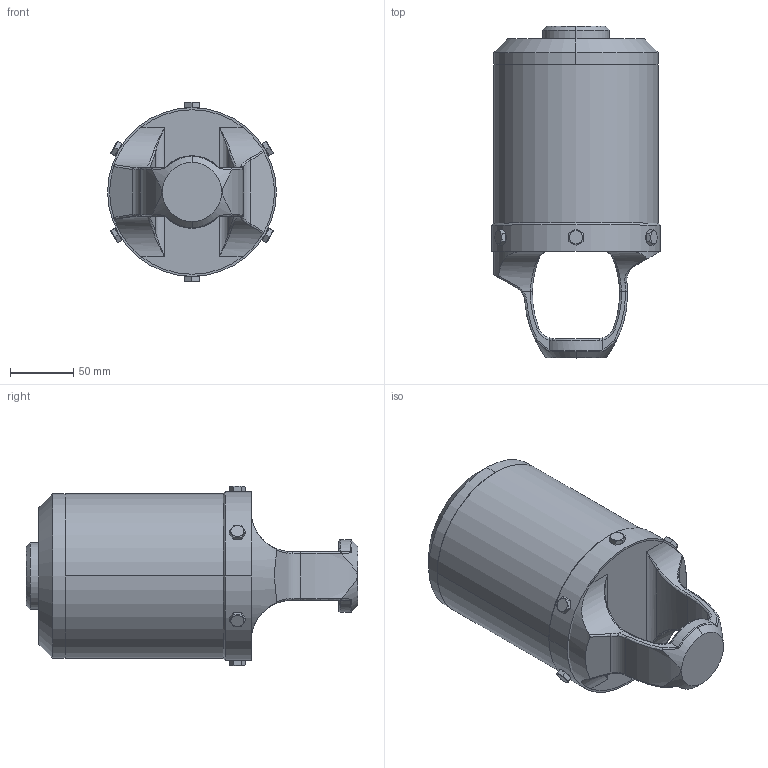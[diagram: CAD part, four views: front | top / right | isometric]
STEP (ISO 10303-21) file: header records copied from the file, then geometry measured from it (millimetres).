
FILE_DESCRIPTION (( 'STEP AP214' ), '1' );
FILE_NAME ('W60 5 IN ACTUATOR.STEP', '2017-11-03T19:48:38', ( '' ), ( '' ), 'SwSTEP 2.0', 'SolidWorks 2014', '' );
FILE_SCHEMA (( 'AUTOMOTIVE_DESIGN' ));
Length unit declared in the file: inch
Products named in the file (1): W60 5 IN ACTUATOR
Bounding box: 133.15 x 261.85 x 141.83 mm (x, y, z)
Volume: 2979221.6 mm3; surface area: 190231.7 mm2
Topology: 9 solids, 9 shells, 229 faces, 532 edges, 331 vertices
Faces by surface type: plane 78, cylinder 61, bspline 52, cone 38
Entity records: 9390 total; most frequent: CARTESIAN_POINT 4455, ORIENTED_EDGE 1056, DIRECTION 913, EDGE_CURVE 528, AXIS2_PLACEMENT_3D 367, VERTEX_POINT 331, EDGE_LOOP 245, FACE_OUTER_BOUND 229
